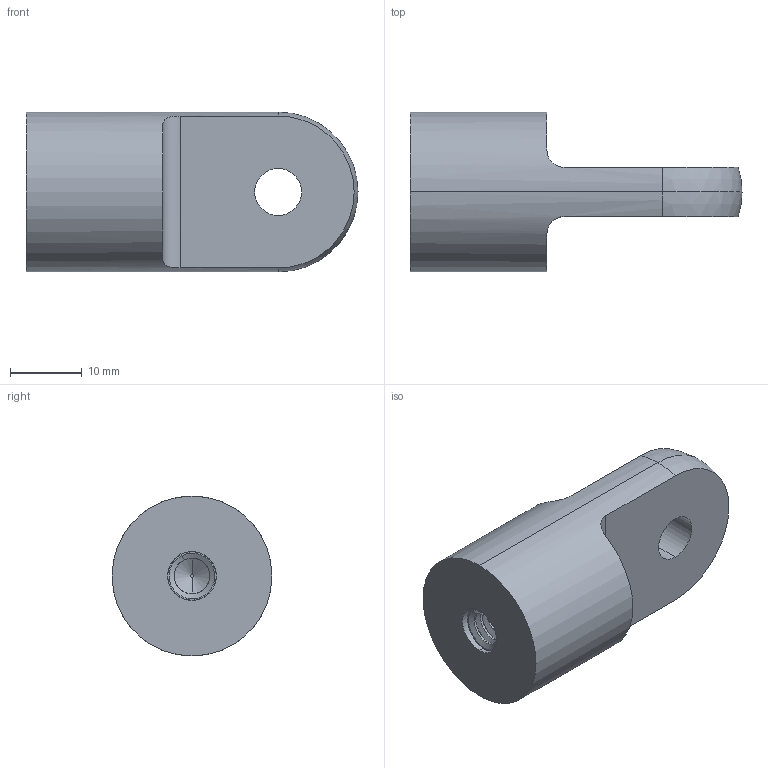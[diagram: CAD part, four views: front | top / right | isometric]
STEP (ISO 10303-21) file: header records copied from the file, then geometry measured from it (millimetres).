
FILE_DESCRIPTION (( 'STEP AP214' ), '1' );
FILE_NAME ('DRP-002-0531-00.STEP', '2013-12-20T17:36:29', ( 'ydmin' ), ( 'Microsoft' ), 'SwSTEP 2.0', 'SolidWorks 2013', '' );
FILE_SCHEMA (( 'AUTOMOTIVE_DESIGN' ));
Length unit declared in the file: inch
Products named in the file (1): DRP-002-0531-00
Bounding box: 46.18 x 22.23 x 22.23 mm (x, y, z)
Volume: 10364.7 mm3; surface area: 4217.1 mm2
Topology: 2 solids, 2 shells, 28 faces, 66 edges, 43 vertices
Faces by surface type: bspline 8, plane 8, cylinder 8, cone 2, sphere 2
Entity records: 2763 total; most frequent: CARTESIAN_POINT 1738, ORIENTED_EDGE 132, DIRECTION 118, EDGE_CURVE 66, VERTEX_POINT 43, AXIS2_PLACEMENT_3D 43, LINE 32, LENGTH_MEASURE_WITH_UNIT 32
